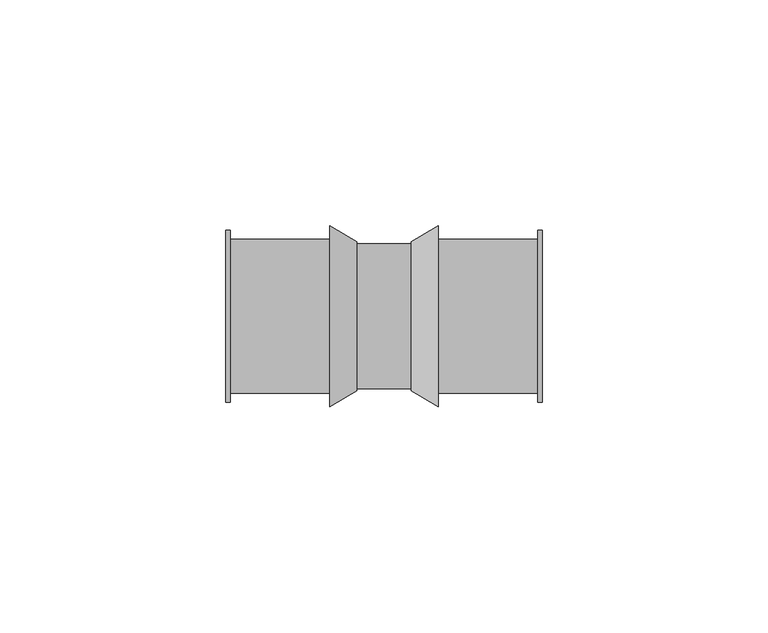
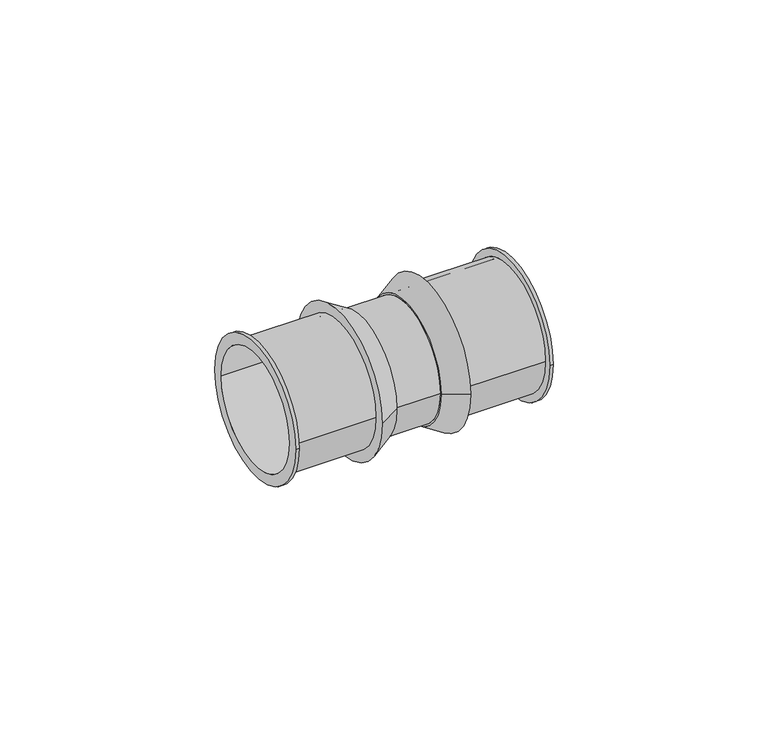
"""IFC4 building model written with IfcOpenShell, lengths in millimetres: pipe fitting geometry, SuperPipe_Coupling_SPressPlus : SuperPipe_Coupling_SPressPlus."""

from ifc_helpers import new_model, si_unit, point, frame, origin, origin_2d, place, context, project, spatial, polyline, circle_curve, trimmed, segment, composite_curve, outline, extrude, source, transform, mapped, element, save
from ifc_brep_helpers import plane_surface, cylinder_surface, revolved_surface, advanced_brep


def pipe_fitting_6526e532(model_context):
    return source(origin(), model_context, "Body", "SolidModel", [
        advanced_brep(
        [(-35.0, -19.0, 0.0), (-35.0, 19.0, 0.0), (-35.0, -16.0, 0.0), (-35.0, 16.0, 0.0), (-12.0, -17.0, 0.0), (-12.0, 17.0, 0.0), (-12.0, -16.0, 0.0), (-12.0, 16.0, 0.0), (-34.0, -16.0, 0.0), (-34.0, 16.0, 0.0), (-34.0, 17.0, 0.0), (-34.0, -17.0, 0.0), (-34.0, -19.0, 0.0), (-34.0, 19.0, 0.0)],
        [
            (0, 1, circle_curve(frame((-35.0, 0.0, 0.0), z_axis=(-1.0, 0.0, 0.0), x_axis=(0.0, 1.0, 0.0)), 19.0)),
            (1, 0, circle_curve(frame((-35.0, 0.0, 0.0), z_axis=(-1.0, 0.0, 0.0), x_axis=(0.0, 1.0, 0.0)), 19.0)),
            (2, 3, circle_curve(frame((-35.0, 0.0, 0.0), z_axis=(1.0, 0.0, 0.0), x_axis=(0.0, 1.0, 0.0)), 16.0)),
            (3, 2, circle_curve(frame((-35.0, 0.0, 0.0), z_axis=(1.0, 0.0, 0.0), x_axis=(0.0, 1.0, 0.0)), 16.0)),
            (4, 5, circle_curve(frame((-12.0, 0.0, 0.0), z_axis=(1.0, 0.0, 0.0), x_axis=(0.0, 1.0, 0.0)), 17.0)),
            (5, 4, circle_curve(frame((-12.0, 0.0, 0.0), z_axis=(1.0, 0.0, 0.0), x_axis=(0.0, 1.0, 0.0)), 17.0)),
            (6, 7, circle_curve(frame((-12.0, 0.0, 0.0), z_axis=(-1.0, 0.0, 0.0), x_axis=(0.0, 1.0, 0.0)), 16.0)),
            (7, 6, circle_curve(frame((-12.0, 0.0, 0.0), z_axis=(-1.0, 0.0, 0.0), x_axis=(0.0, 1.0, 0.0)), 16.0)),
            (2, 8),
            (8, 6),
            (7, 9),
            (9, 3),
            (5, 10),
            (10, 11, circle_curve(frame((-34.0, 0.0, 0.0), z_axis=(1.0, 0.0, 0.0), x_axis=(0.0, 1.0, 0.0)), 17.0)),
            (11, 4),
            (11, 10, circle_curve(frame((-34.0, 0.0, 0.0), z_axis=(1.0, 0.0, 0.0), x_axis=(0.0, 1.0, 0.0)), 17.0)),
            (12, 13, circle_curve(frame((-34.0, 0.0, 0.0), z_axis=(1.0, 0.0, 0.0), x_axis=(0.0, 1.0, 0.0)), 19.0)),
            (13, 12, circle_curve(frame((-34.0, 0.0, 0.0), z_axis=(1.0, 0.0, 0.0), x_axis=(0.0, 1.0, 0.0)), 19.0)),
            (0, 12),
            (13, 1),
        ],
        [
            plane_surface(frame((-35.0, 0.0, 0.0), z_axis=(-1.0, 0.0, 0.0), x_axis=(0.0, 0.0, 1.0))),
            plane_surface(frame((-12.0, 0.0, 0.0), z_axis=(1.0, 0.0, 0.0), x_axis=(0.0, 0.0, 1.0))),
            revolved_surface(polyline([(-12.0, 16.0, 0.0), (-35.0, 16.0, 0.0)]), (-35.0, 0.0, 0.0), (1.0, 0.0, 0.0)),
            cylinder_surface(frame((-35.0, 0.0, 0.0), z_axis=(-1.0, 0.0, 0.0), x_axis=(0.0, 1.0, 0.0)), 17.0),
            plane_surface(frame((-34.0, 0.0, 0.0), z_axis=(1.0, 0.0, 0.0), x_axis=(0.0, 0.0, 1.0))),
            cylinder_surface(frame((-35.0, 0.0, 0.0), z_axis=(-1.0, 0.0, 0.0), x_axis=(0.0, 1.0, 0.0)), 19.0),
        ],
        [
            (0, [[1, 2], [3, 4]]),
            (1, [[5, 6], [7, 8]]),
            (2, [[-3, 9, 10, -8, 11, 12]]),
            (2, [[-4, -12, -11, -7, -10, -9]]),
            (3, [[-6, 13, 14, 15]]),
            (3, [[-5, -15, 16, -13]]),
            (4, [[17, 18], [-14, -16]]),
            (5, [[-1, 19, -18, 20]]),
            (5, [[-2, -20, -17, -19]]),
        ],
    ),
        advanced_brep(
        [(12.0, -17.0, 0.0), (12.0, 17.0, 0.0), (12.0, -16.0, 0.0), (12.0, 16.0, 0.0), (35.0, -19.0, 0.0), (35.0, 19.0, 0.0), (35.0, -16.0, 0.0), (35.0, 16.0, 0.0), (34.0, -17.0, 0.0), (34.0, 17.0, 0.0), (34.0, -16.0, 0.0), (34.0, 16.0, 0.0), (34.0, -19.0, 0.0), (34.0, 19.0, 0.0)],
        [
            (0, 1, circle_curve(frame((12.0, 0.0, 0.0), z_axis=(-1.0, 0.0, 0.0), x_axis=(0.0, 1.0, 0.0)), 17.0)),
            (1, 0, circle_curve(frame((12.0, 0.0, 0.0), z_axis=(-1.0, 0.0, 0.0), x_axis=(0.0, 1.0, 0.0)), 17.0)),
            (2, 3, circle_curve(frame((12.0, 0.0, 0.0), z_axis=(1.0, 0.0, 0.0), x_axis=(0.0, 1.0, 0.0)), 16.0)),
            (3, 2, circle_curve(frame((12.0, 0.0, 0.0), z_axis=(1.0, 0.0, 0.0), x_axis=(0.0, 1.0, 0.0)), 16.0)),
            (4, 5, circle_curve(frame((35.0, 0.0, 0.0), z_axis=(1.0, 0.0, 0.0), x_axis=(0.0, 1.0, 0.0)), 19.0)),
            (5, 4, circle_curve(frame((35.0, 0.0, 0.0), z_axis=(1.0, 0.0, 0.0), x_axis=(0.0, 1.0, 0.0)), 19.0)),
            (6, 7, circle_curve(frame((35.0, 0.0, 0.0), z_axis=(-1.0, 0.0, 0.0), x_axis=(0.0, 1.0, 0.0)), 16.0)),
            (7, 6, circle_curve(frame((35.0, 0.0, 0.0), z_axis=(-1.0, 0.0, 0.0), x_axis=(0.0, 1.0, 0.0)), 16.0)),
            (0, 8),
            (8, 9, circle_curve(frame((34.0, 0.0, 0.0), z_axis=(-1.0, 0.0, 0.0), x_axis=(0.0, 1.0, 0.0)), 17.0)),
            (9, 1),
            (9, 8, circle_curve(frame((34.0, 0.0, 0.0), z_axis=(-1.0, 0.0, 0.0), x_axis=(0.0, 1.0, 0.0)), 17.0)),
            (2, 10),
            (10, 6),
            (7, 11),
            (11, 3),
            (12, 13, circle_curve(frame((34.0, 0.0, 0.0), z_axis=(-1.0, 0.0, 0.0), x_axis=(0.0, 1.0, 0.0)), 19.0)),
            (13, 12, circle_curve(frame((34.0, 0.0, 0.0), z_axis=(-1.0, 0.0, 0.0), x_axis=(0.0, 1.0, 0.0)), 19.0)),
            (12, 4),
            (5, 13),
        ],
        [
            plane_surface(frame((12.0, 0.0, 0.0), z_axis=(-1.0, 0.0, 0.0), x_axis=(0.0, 0.0, 1.0))),
            plane_surface(frame((35.0, 0.0, 0.0), z_axis=(1.0, 0.0, 0.0), x_axis=(0.0, 0.0, 1.0))),
            cylinder_surface(frame((12.0, 0.0, 0.0), z_axis=(-1.0, 0.0, 0.0), x_axis=(0.0, 1.0, 0.0)), 17.0),
            revolved_surface(polyline([(35.0, 16.0, 0.0), (12.0, 16.0, 0.0)]), (12.0, 0.0, 0.0), (1.0, 0.0, 0.0)),
            plane_surface(frame((34.0, 0.0, 0.0), z_axis=(-1.0, 0.0, 0.0), x_axis=(0.0, 0.0, 1.0))),
            cylinder_surface(frame((34.0, 0.0, 0.0), z_axis=(-1.0, 0.0, 0.0), x_axis=(0.0, 1.0, 0.0)), 19.0),
        ],
        [
            (0, [[1, 2], [3, 4]]),
            (1, [[5, 6], [7, 8]]),
            (2, [[-1, 9, 10, 11]]),
            (2, [[-2, -11, 12, -9]]),
            (3, [[-3, 13, 14, -8, 15, 16]]),
            (3, [[-4, -16, -15, -7, -14, -13]]),
            (4, [[17, 18], [-10, -12]]),
            (5, [[-17, 19, -6, 20]]),
            (5, [[-18, -20, -5, -19]]),
        ],
    ),
        advanced_brep(
        [(12.0, -20.0, 0.0), (12.0, 20.0, 0.0), (12.0, 16.0, 0.0), (12.0, -16.0, 0.0), (6.0, -16.5, 0.0), (6.0, 16.5, 0.0), (6.0, -16.0, 0.0), (6.0, 16.0, 0.0)],
        [
            (0, 1, circle_curve(frame((12.0, 0.0, 0.0), z_axis=(1.0, 0.0, 0.0), x_axis=(0.0, -1.0, 0.0)), 20.0)),
            (1, 0, circle_curve(frame((12.0, 0.0, 0.0), z_axis=(1.0, 0.0, 0.0), x_axis=(0.0, 1.0, 0.0)), 20.0)),
            (2, 3, circle_curve(frame((12.0, 0.0, 0.0), z_axis=(-1.0, 0.0, 0.0), x_axis=(0.0, 1.0, 0.0)), 16.0)),
            (3, 2, circle_curve(frame((12.0, 0.0, 0.0), z_axis=(-1.0, 0.0, 0.0), x_axis=(0.0, 1.0, 0.0)), 16.0)),
            (4, 5, circle_curve(frame((6.0, 0.0, 0.0), z_axis=(-1.0, 0.0, 0.0), x_axis=(0.0, 1.0, 0.0)), 16.5)),
            (5, 4, circle_curve(frame((6.0, 0.0, 0.0), z_axis=(-1.0, 0.0, 0.0), x_axis=(0.0, -1.0, 0.0)), 16.5)),
            (6, 7, circle_curve(frame((6.0, 0.0, 0.0), z_axis=(1.0, 0.0, 0.0), x_axis=(0.0, 1.0, 0.0)), 16.0)),
            (7, 6, circle_curve(frame((6.0, 0.0, 0.0), z_axis=(1.0, 0.0, 0.0), x_axis=(0.0, 1.0, 0.0)), 16.0)),
            (0, 4),
            (5, 1),
            (2, 7),
            (6, 3),
        ],
        [
            plane_surface(frame((12.0, 0.0, 0.0), z_axis=(1.0, 0.0, 0.0), x_axis=(0.0, 0.0, -1.0))),
            plane_surface(frame((6.0, 0.0, 0.0), z_axis=(-1.0, 0.0, 0.0), x_axis=(0.0, 0.0, -1.0))),
            revolved_surface(polyline([(6.0, 16.500000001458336, 0.0), (11.999999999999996, 20.0, 0.0)]), (-22.2857143, 0.0, 0.0), (1.0, 0.0, 0.0)),
            revolved_surface(polyline([(6.0, -16.500000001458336, 0.0), (11.999999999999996, -20.0, 0.0)]), (-22.2857143, 0.0, 0.0), (1.0, 0.0, 0.0)),
            revolved_surface(polyline([(12.0, 16.0, 0.0), (6.0, 16.0, 0.0)]), (6.0, 0.0, 0.0), (1.0, 0.0, 0.0)),
        ],
        [
            (0, [[1, 2], [3, 4]]),
            (1, [[5, 6], [7, 8]]),
            (2, [[-1, 9, -6, 10]]),
            (3, [[-2, -10, -5, -9]]),
            (4, [[11, -7, 12, -3]]),
            (4, [[-11, -4, -12, -8]]),
        ],
    ),
        advanced_brep(
        [(-6.0, -16.5, 0.0), (-6.0, 16.5, 0.0), (-6.0, 16.0, 0.0), (-6.0, -16.0, 0.0), (-12.0, -20.0, 0.0), (-12.0, 20.0, 0.0), (-12.0, -16.0, 0.0), (-12.0, 16.0, 0.0)],
        [
            (0, 1, circle_curve(frame((-6.0, 0.0, 0.0), z_axis=(1.0, 0.0, 0.0), x_axis=(0.0, -1.0, 0.0)), 16.5)),
            (1, 0, circle_curve(frame((-6.0, 0.0, 0.0), z_axis=(1.0, 0.0, 0.0), x_axis=(0.0, 1.0, 0.0)), 16.5)),
            (2, 3, circle_curve(frame((-6.0, 0.0, 0.0), z_axis=(-1.0, 0.0, 0.0), x_axis=(0.0, 1.0, 0.0)), 16.0)),
            (3, 2, circle_curve(frame((-6.0, 0.0, 0.0), z_axis=(-1.0, 0.0, 0.0), x_axis=(0.0, 1.0, 0.0)), 16.0)),
            (4, 5, circle_curve(frame((-12.0, 0.0, 0.0), z_axis=(-1.0, 0.0, 0.0), x_axis=(0.0, 1.0, 0.0)), 20.0)),
            (5, 4, circle_curve(frame((-12.0, 0.0, 0.0), z_axis=(-1.0, 0.0, 0.0), x_axis=(0.0, -1.0, 0.0)), 20.0)),
            (6, 7, circle_curve(frame((-12.0, 0.0, 0.0), z_axis=(1.0, 0.0, 0.0), x_axis=(0.0, 1.0, 0.0)), 16.0)),
            (7, 6, circle_curve(frame((-12.0, 0.0, 0.0), z_axis=(1.0, 0.0, 0.0), x_axis=(0.0, 1.0, 0.0)), 16.0)),
            (0, 4),
            (5, 1),
            (2, 7),
            (6, 3),
        ],
        [
            plane_surface(frame((-6.0, 0.0, 0.0), z_axis=(1.0, 0.0, 0.0), x_axis=(0.0, 0.0, -1.0))),
            plane_surface(frame((-12.0, 0.0, 0.0), z_axis=(-1.0, 0.0, 0.0), x_axis=(0.0, 0.0, -1.0))),
            revolved_surface(polyline([(-6.0, -16.500000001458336, 0.0), (-11.999999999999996, -20.0, 0.0)]), (22.2857143, 0.0, 0.0), (-1.0, 0.0, 0.0)),
            revolved_surface(polyline([(-6.0, 16.500000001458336, 0.0), (-11.999999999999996, 20.0, 0.0)]), (22.2857143, 0.0, 0.0), (-1.0, 0.0, 0.0)),
            revolved_surface(polyline([(-6.0, 16.0, 0.0), (-12.0, 16.0, 0.0)]), (-12.0, 0.0, 0.0), (1.0, 0.0, 0.0)),
        ],
        [
            (0, [[1, 2], [3, 4]]),
            (1, [[5, 6], [7, 8]]),
            (2, [[-1, 9, -6, 10]]),
            (3, [[-2, -10, -5, -9]]),
            (4, [[11, -7, 12, -3]]),
            (4, [[-11, -4, -12, -8]]),
        ],
    ),
        extrude(outline(composite_curve([segment(trimmed(circle_curve(origin_2d(), 16.0), [point((-16.0, 0.0))], [point((16.0, 0.0))], False, "CARTESIAN"), True, "CONTINUOUS"), segment(trimmed(circle_curve(origin_2d(), 16.0), [point((16.0, 0.0))], [point((-16.0, 0.0))], False, "CARTESIAN"), True, "CONTINUOUS")], self_intersect=False)), frame((-6.0, 0.0, 0.0), z_axis=(1.0, 0.0, 0.0), x_axis=(0.0, 1.0, 0.0)), (0.0, 0.0, 1.0), 12.0),
    ])


if __name__ == "__main__":
    model = new_model("IFC4")
    model_context = context("Model", 3, world=origin())
    ifc_project = project(units=[si_unit("LENGTHUNIT", "METRE", prefix="MILLI")], contexts=[model_context])
    site = spatial("IfcSite", under=ifc_project)
    building = spatial("IfcBuilding", under=site)
    placement = place(None, origin())
    pipe_fitting_shape = pipe_fitting_6526e532(model_context)
    element("IfcPipeFitting", 1, ObjectType="SuperPipe_Coupling_SPressPlus : SuperPipe_Coupling_SPressPlus", at=placement, inside=building, context=model_context, shape_type="MappedRepresentation", body=[
        mapped(pipe_fitting_shape, transform((0.0, 0.0, 0.0), x_axis=(1.0, 0.0, 0.0), y_axis=(0.0, 1.0, 0.0), z_axis=(0.0, 0.0, 1.0))),
    ])
    save(model, "model.ifc")
